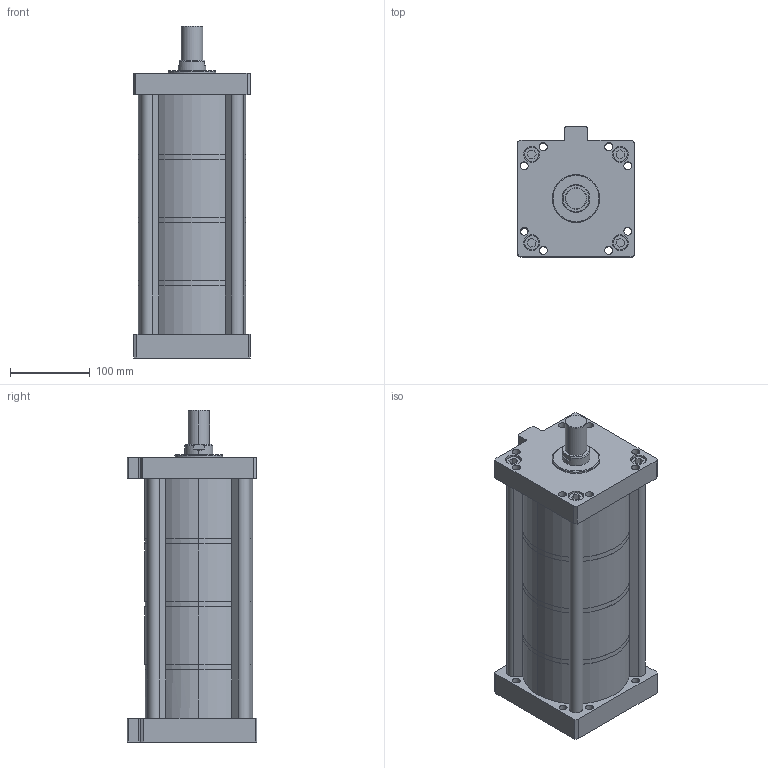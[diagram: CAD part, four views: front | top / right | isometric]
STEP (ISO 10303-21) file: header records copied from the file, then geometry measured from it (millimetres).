
FILE_DESCRIPTION (( 'STEP AP203' ), '1' );
FILE_NAME ('MHK-125-50-E-4.STEP', '2016-03-30T09:14:36', ( 'WIN' ), ( '' ), 'SwSTEP 2.0', 'SolidWorks 2014', '' );
FILE_SCHEMA (( 'CONFIG_CONTROL_DESIGN' ));
Length unit declared in the file: millimetre
Products named in the file (1): MHK-125-50-E-4
Bounding box: 146 x 163 x 416.5 mm (x, y, z)
Volume: 2288626 mm3; surface area: 609144.5 mm2
Topology: 4 solids, 8 shells, 319 faces, 765 edges, 504 vertices
Faces by surface type: plane 160, cylinder 145, cone 12, torus 2
Entity records: 9486 total; most frequent: DIRECTION 1709, CARTESIAN_POINT 1617, ORIENTED_EDGE 1522, EDGE_CURVE 761, AXIS2_PLACEMENT_3D 636, VERTEX_POINT 504, LINE 437, VECTOR 437
